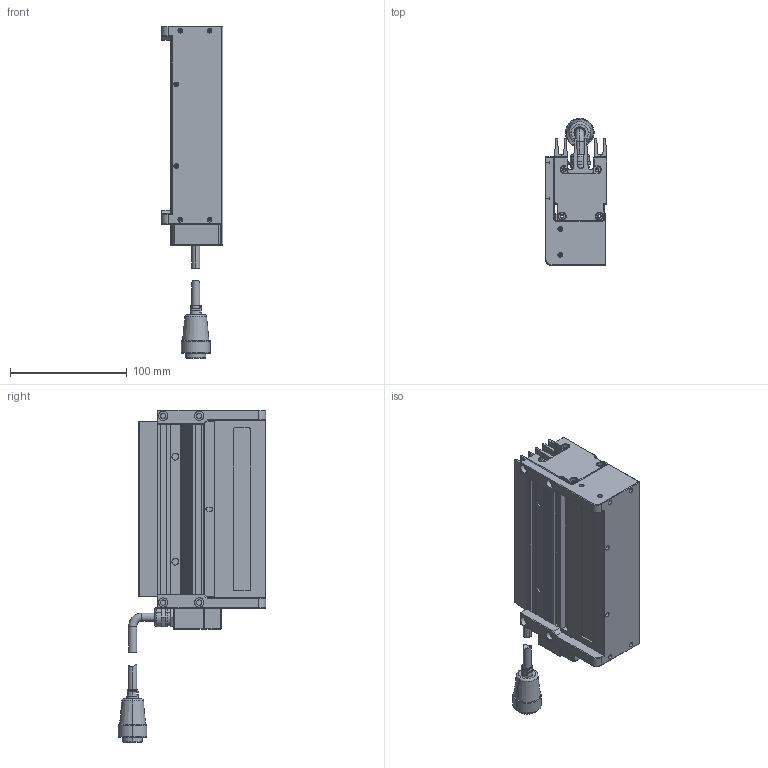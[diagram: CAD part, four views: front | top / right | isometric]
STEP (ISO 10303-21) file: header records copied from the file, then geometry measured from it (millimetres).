
FILE_DESCRIPTION((''),'2;1');
FILE_NAME('SPR','2020-12-16T',('win 10'),(''),'PRO/ENGINEER BY PARAMETRIC TECHNOLOGY CORPORATION, 2010100','PRO/ENGINEER BY PARAMETRIC TECHNOLOGY CORPORATION, 2010100','');
FILE_SCHEMA(('CONFIG_CONTROL_DESIGN'));
Length unit declared in the file: millimetre
Products named in the file (1): SPR
Bounding box: 53 x 126.4 x 284.5 mm (x, y, z)
Volume: 506414.2 mm3; surface area: 175827.5 mm2
Topology: 3 solids, 24 shells, 1070 faces, 2737 edges, 1730 vertices
Faces by surface type: plane 587, cylinder 362, cone 99, torus 14, bspline 8
Entity records: 32743 total; most frequent: CARTESIAN_POINT 6232, DIRECTION 5754, ORIENTED_EDGE 5310, EDGE_CURVE 2705, AXIS2_PLACEMENT_3D 2022, VERTEX_POINT 1730, VECTOR 1710, LINE 1710
